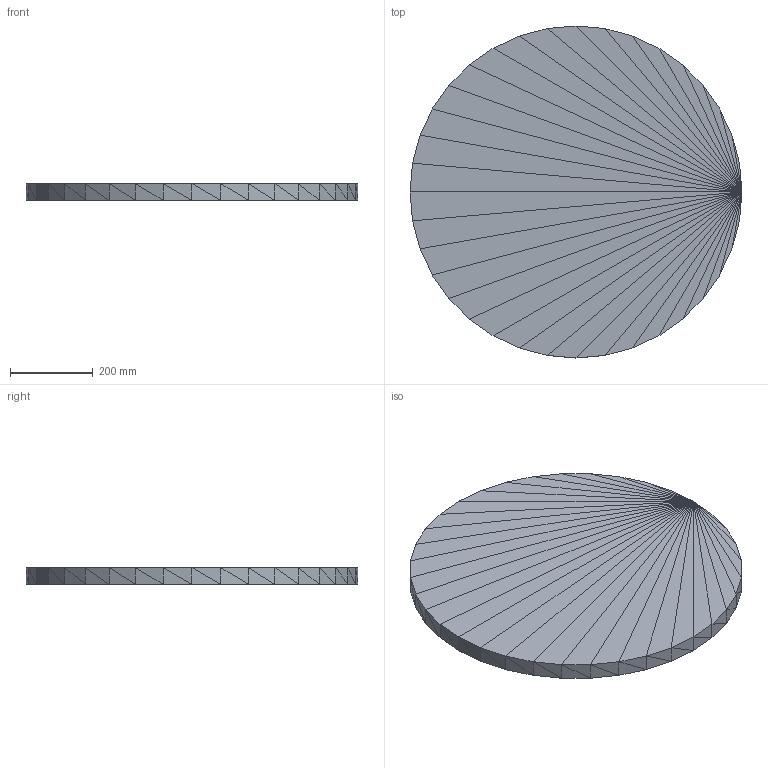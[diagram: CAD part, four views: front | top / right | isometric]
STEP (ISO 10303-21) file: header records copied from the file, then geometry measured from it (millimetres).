
FILE_DESCRIPTION(('ISINAC STEP AP214'),'2;1');
FILE_NAME('ISINAC_CIR.800_40mm_ADHESIVO','2026-05-03T10:49:20',('ISINAC'),('www.isinac.com'),'ISINAC BIM Generator 1.0','','');
FILE_SCHEMA(('AUTOMOTIVE_DESIGN'));
Length unit declared in the file: millimetre
Products named in the file (1): ISINAC_CIR.800_40mm_ADHESIVO
Bounding box: 800 x 800 x 40 mm (x, y, z)
Surface area: 1100616.9 mm2 (no closed solid volume)
Topology: 0 solids, 140 shells, 140 faces, 420 edges, 420 vertices
Faces by surface type: plane 140
Entity records: 1553 total; most frequent: CARTESIAN_POINT 560, DIRECTION 280, POLY_LOOP 140, FACE_OUTER_BOUND 140, AXIS2_PLACEMENT_3D 140, PLANE 140, FACE_SURFACE 140, CLOSED_SHELL 1
